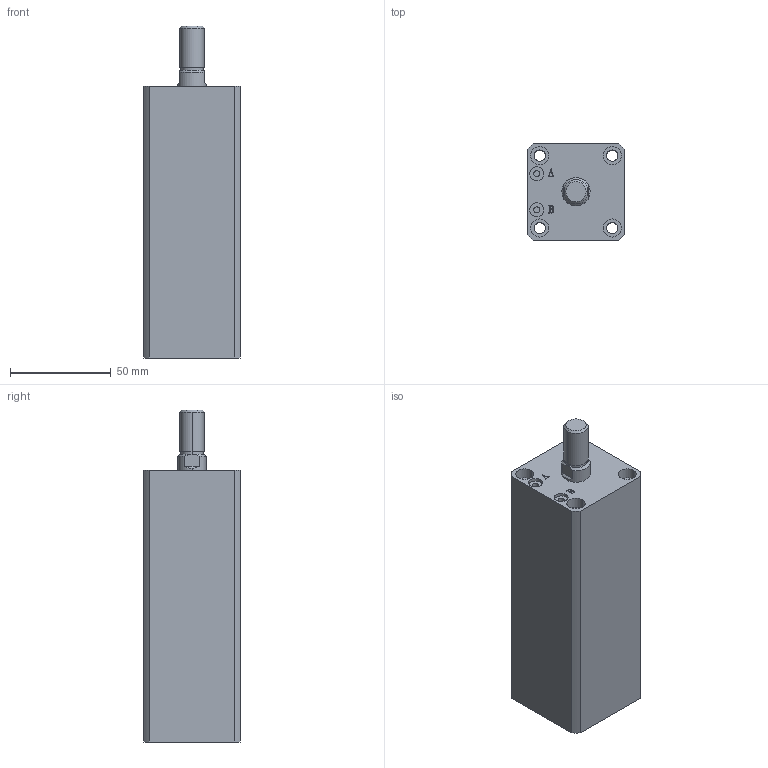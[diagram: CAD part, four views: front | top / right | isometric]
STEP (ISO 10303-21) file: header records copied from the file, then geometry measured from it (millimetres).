
FILE_DESCRIPTION (( 'STEP AP203' ), '1' );
FILE_NAME ('HTB-SDMA25-90W.STEP', '2019-10-07T11:16:10', ( '微软用户' ), ( '微软中国' ), 'SwSTEP 2.0', 'SolidWorks 2012', '' );
FILE_SCHEMA (( 'CONFIG_CONTROL_DESIGN' ));
Length unit declared in the file: millimetre
Products named in the file (3): HTB-SDMA25-90W; HTB-SDMA25-90W活塞杆; HTB-SDMA25-90掛极
Assembly tree (2 placements, depth 2):
  HTB-SDMA25-90W
    HTB-SDMA25-90掛极
    HTB-SDMA25-90W活塞杆
Bounding box: 48 x 48 x 165 mm (x, y, z)
Volume: 266930.2 mm3; surface area: 57798.4 mm2
Topology: 2 solids, 2 shells, 141 faces, 335 edges, 220 vertices
Faces by surface type: plane 67, cylinder 48, bspline 16, torus 6, cone 4
Entity records: 5178 total; most frequent: CARTESIAN_POINT 1609, ORIENTED_EDGE 670, DIRECTION 667, EDGE_CURVE 335, AXIS2_PLACEMENT_3D 242, VERTEX_POINT 220, LINE 183, VECTOR 183
